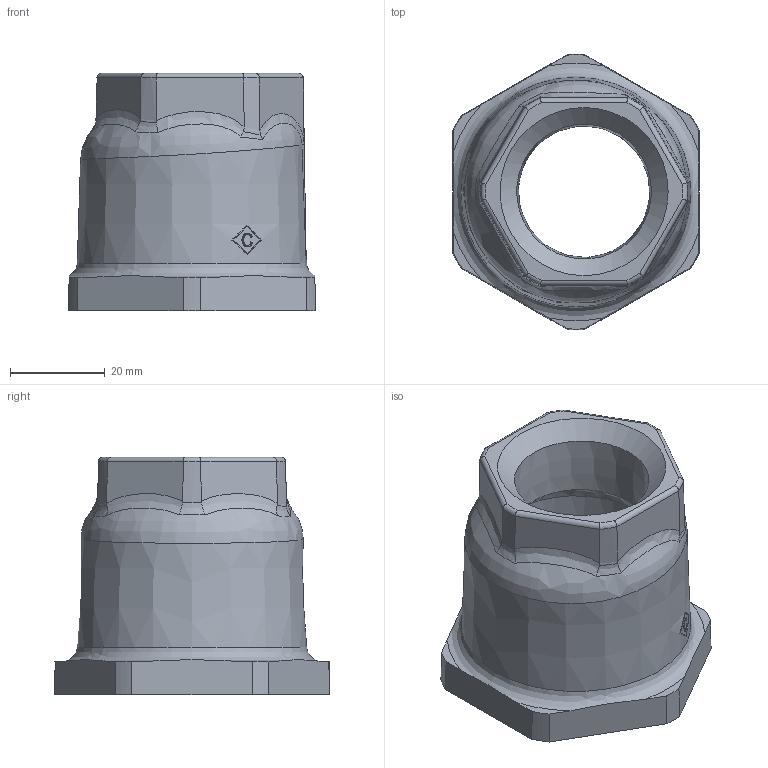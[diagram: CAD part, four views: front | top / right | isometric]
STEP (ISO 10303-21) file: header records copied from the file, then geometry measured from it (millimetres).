
FILE_DESCRIPTION((''),'2;1');
FILE_NAME('P:\Fastrack\53909_CRANE\Crane\Fig.180 Eccentric Socket\New 1.25 inch\180-1.25x1.00.stp','2009-09-17T08:42:46',('btaylor'),(''),'Autodesk Inventor 2008','Autodesk Inventor 2008','');
FILE_SCHEMA(('AUTOMOTIVE_DESIGN { 1 0 10303 214 1 1 1 1 }'));
Length unit declared in the file: millimetre
Products named in the file (1): 180-1.25x1.00
Bounding box: 52 x 57.99 x 50 mm (x, y, z)
Volume: 40267.5 mm3; surface area: 14943.9 mm2
Topology: 1 solids, 1 shells, 87 faces, 242 edges, 160 vertices
Faces by surface type: plane 31, bspline 24, cone 20, torus 6, cylinder 6
Entity records: 4840 total; most frequent: CARTESIAN_POINT 2891, ORIENTED_EDGE 462, DIRECTION 296, EDGE_CURVE 231, VERTEX_POINT 156, AXIS2_PLACEMENT_3D 124, B_SPLINE_CURVE_WITH_KNOTS 113, EDGE_LOOP 99
